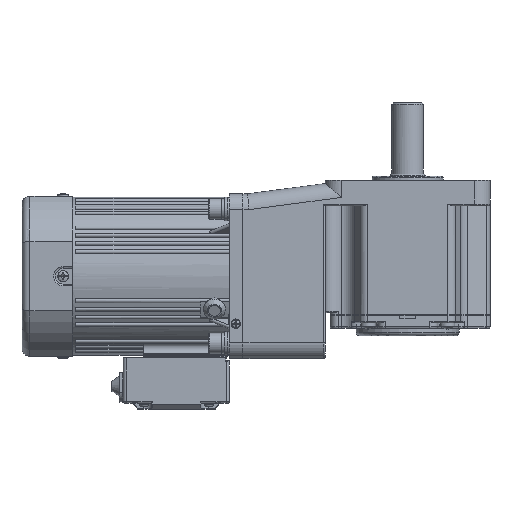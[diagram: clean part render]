
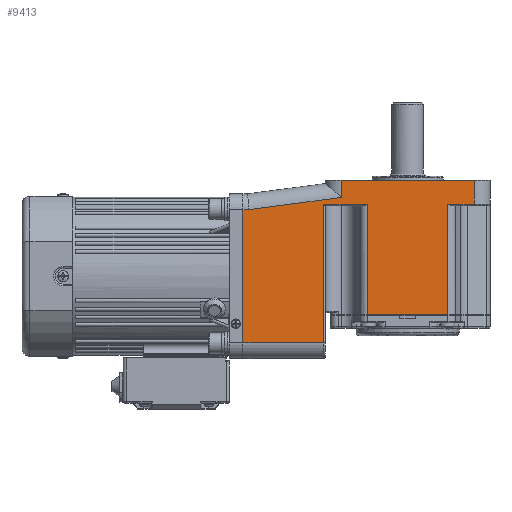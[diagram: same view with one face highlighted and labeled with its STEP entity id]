
A CAD part, front view. The second image highlights one B-rep face of the part: STEP entity #9413.
In plain terms, the highlighted planar face has unit normal (0, -1, 0).
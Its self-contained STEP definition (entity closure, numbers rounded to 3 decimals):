
#3048=PLANE('',#41462);
#4248=LINE('',#57795,#6880);
#4249=LINE('',#57798,#6881);
#4250=LINE('',#57800,#6882);
#4251=LINE('',#57802,#6883);
#4252=LINE('',#57804,#6884);
#4253=LINE('',#57806,#6885);
#4254=LINE('',#57808,#6886);
#4255=LINE('',#57810,#6887);
#4256=LINE('',#57812,#6888);
#4257=LINE('',#57814,#6889);
#4258=LINE('',#57816,#6890);
#4259=LINE('',#57818,#6891);
#4260=LINE('',#57820,#6892);
#6880=VECTOR('',#46204,1.);
#6881=VECTOR('',#46205,1.);
#6882=VECTOR('',#46206,1.);
#6883=VECTOR('',#46207,1.);
#6884=VECTOR('',#46208,1.);
#6885=VECTOR('',#46209,1.);
#6886=VECTOR('',#46210,1.);
#6887=VECTOR('',#46211,1.);
#6888=VECTOR('',#46212,1.);
#6889=VECTOR('',#46213,1.);
#6890=VECTOR('',#46214,1.);
#6891=VECTOR('',#46215,1.);
#6892=VECTOR('',#46216,1.);
#9413=ADVANCED_FACE('',(#12665),#3048,.T.);
#12665=FACE_OUTER_BOUND('',#14661,.T.);
#14661=EDGE_LOOP('',(#18048,#18049,#18050,#18051,#18052,#18053,#18054,#18055,
#18056,#18057,#18058,#18059,#18060));
#18048=ORIENTED_EDGE('',*,*,#33647,.T.);
#18049=ORIENTED_EDGE('',*,*,#33648,.T.);
#18050=ORIENTED_EDGE('',*,*,#33649,.T.);
#18051=ORIENTED_EDGE('',*,*,#33650,.T.);
#18052=ORIENTED_EDGE('',*,*,#33651,.T.);
#18053=ORIENTED_EDGE('',*,*,#33652,.F.);
#18054=ORIENTED_EDGE('',*,*,#33653,.T.);
#18055=ORIENTED_EDGE('',*,*,#33654,.T.);
#18056=ORIENTED_EDGE('',*,*,#33655,.T.);
#18057=ORIENTED_EDGE('',*,*,#33656,.F.);
#18058=ORIENTED_EDGE('',*,*,#33657,.T.);
#18059=ORIENTED_EDGE('',*,*,#33658,.T.);
#18060=ORIENTED_EDGE('',*,*,#33659,.T.);
#29642=VERTEX_POINT('',#57796);
#29643=VERTEX_POINT('',#57797);
#29644=VERTEX_POINT('',#57799);
#29645=VERTEX_POINT('',#57801);
#29646=VERTEX_POINT('',#57803);
#29647=VERTEX_POINT('',#57805);
#29648=VERTEX_POINT('',#57807);
#29649=VERTEX_POINT('',#57809);
#29650=VERTEX_POINT('',#57811);
#29651=VERTEX_POINT('',#57813);
#29652=VERTEX_POINT('',#57815);
#29653=VERTEX_POINT('',#57817);
#29654=VERTEX_POINT('',#57819);
#33647=EDGE_CURVE('',#29642,#29643,#4248,.T.);
#33648=EDGE_CURVE('',#29643,#29644,#4249,.T.);
#33649=EDGE_CURVE('',#29644,#29645,#4250,.T.);
#33650=EDGE_CURVE('',#29645,#29646,#4251,.T.);
#33651=EDGE_CURVE('',#29646,#29647,#4252,.T.);
#33652=EDGE_CURVE('',#29648,#29647,#4253,.T.);
#33653=EDGE_CURVE('',#29648,#29649,#4254,.T.);
#33654=EDGE_CURVE('',#29649,#29650,#4255,.T.);
#33655=EDGE_CURVE('',#29650,#29651,#4256,.T.);
#33656=EDGE_CURVE('',#29652,#29651,#4257,.T.);
#33657=EDGE_CURVE('',#29652,#29653,#4258,.T.);
#33658=EDGE_CURVE('',#29653,#29654,#4259,.T.);
#33659=EDGE_CURVE('',#29654,#29642,#4260,.T.);
#41462=AXIS2_PLACEMENT_3D('',#57821,#46217,#46218);
#46204=DIRECTION('',(0.,0.,-1.));
#46205=DIRECTION('',(1.,0.,0.));
#46206=DIRECTION('',(0.,0.,1.));
#46207=DIRECTION('',(1.,0.,0.));
#46208=DIRECTION('',(0.,0.,1.));
#46209=DIRECTION('',(1.,0.,0.));
#46210=DIRECTION('',(0.,0.,-1.));
#46211=DIRECTION('',(-0.991,0.,-0.132));
#46212=DIRECTION('',(-1.,0.,0.));
#46213=DIRECTION('',(0.,0.,1.));
#46214=DIRECTION('',(1.,0.,0.));
#46215=DIRECTION('',(0.,0.,1.));
#46216=DIRECTION('',(1.,0.,0.));
#46217=DIRECTION('',(0.,-1.,0.));
#46218=DIRECTION('',(0.,0.,-1.));
#57795=CARTESIAN_POINT('',(13.369,-172.671,-87.991));
#57796=CARTESIAN_POINT('',(13.369,-172.671,-12.991));
#57797=CARTESIAN_POINT('',(13.369,-172.671,-82.981));
#57798=CARTESIAN_POINT('',(-11.8,-172.671,-82.981));
#57799=CARTESIAN_POINT('',(64.031,-172.671,-82.981));
#57800=CARTESIAN_POINT('',(64.031,-172.671,-13.991));
#57801=CARTESIAN_POINT('',(64.031,-172.671,-12.991));
#57802=CARTESIAN_POINT('',(-13.3,-172.671,-12.991));
#57803=CARTESIAN_POINT('',(80.7,-172.671,-12.991));
#57804=CARTESIAN_POINT('',(80.7,-172.671,-91.491));
#57805=CARTESIAN_POINT('',(80.7,-172.671,2.009));
#57806=CARTESIAN_POINT('',(-13.3,-172.671,2.009));
#57807=CARTESIAN_POINT('',(-3.3,-172.671,2.009));
#57808=CARTESIAN_POINT('',(-3.3,-172.671,-91.491));
#57809=CARTESIAN_POINT('',(-3.3,-172.671,-8.752));
#57810=CARTESIAN_POINT('',(-60.985,-172.671,-16.404));
#57811=CARTESIAN_POINT('',(-61.64,-172.671,-16.491));
#57812=CARTESIAN_POINT('',(-65.3,-172.671,-16.491));
#57813=CARTESIAN_POINT('',(-65.3,-172.671,-16.491));
#57814=CARTESIAN_POINT('',(-65.3,-172.671,-110.491));
#57815=CARTESIAN_POINT('',(-65.3,-172.671,-100.491));
#57816=CARTESIAN_POINT('',(-13.3,-172.671,-100.491));
#57817=CARTESIAN_POINT('',(-14.3,-172.671,-100.491));
#57818=CARTESIAN_POINT('',(-14.3,-172.671,-13.991));
#57819=CARTESIAN_POINT('',(-14.3,-172.671,-12.991));
#57820=CARTESIAN_POINT('',(-13.3,-172.671,-12.991));
#57821=CARTESIAN_POINT('',(-13.3,-172.671,-91.491));
